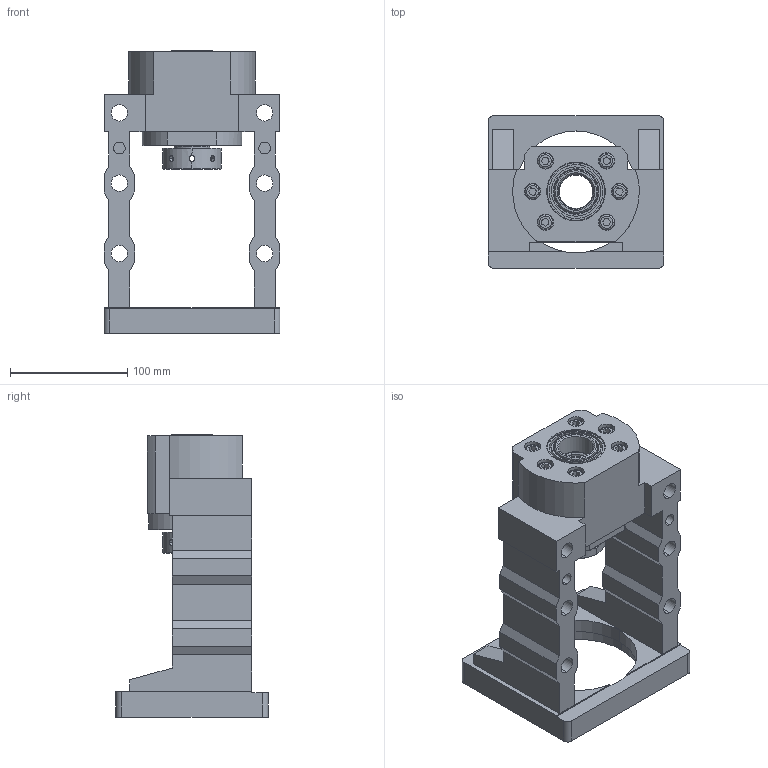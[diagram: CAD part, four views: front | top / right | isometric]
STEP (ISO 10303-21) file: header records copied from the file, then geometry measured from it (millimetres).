
FILE_DESCRIPTION (( 'STEP AP203' ), '1' );
FILE_NAME ('MBCK30-G²Õ¦X¥ó.STEP', '2022-10-20T03:20:54', ( '' ), ( '' ), 'SwSTEP 2.0', 'SolidWorks 2018', '' );
FILE_SCHEMA (( 'CONFIG_CONTROL_DESIGN' ));
Length unit declared in the file: millimetre
Products named in the file (1): MBCK30-G組合件
Bounding box: 150 x 130 x 241 mm (x, y, z)
Surface area: 197624 mm2 (no closed solid volume)
Topology: 0 solids, 21 shells, 343 faces, 952 edges, 627 vertices
Faces by surface type: plane 134, cylinder 120, cone 62, torus 26, bspline 1
Entity records: 13729 total; most frequent: CARTESIAN_POINT 4883, DIRECTION 1870, ORIENTED_EDGE 1680, EDGE_CURVE 944, AXIS2_PLACEMENT_3D 704, VERTEX_POINT 627, LINE 462, VECTOR 462
